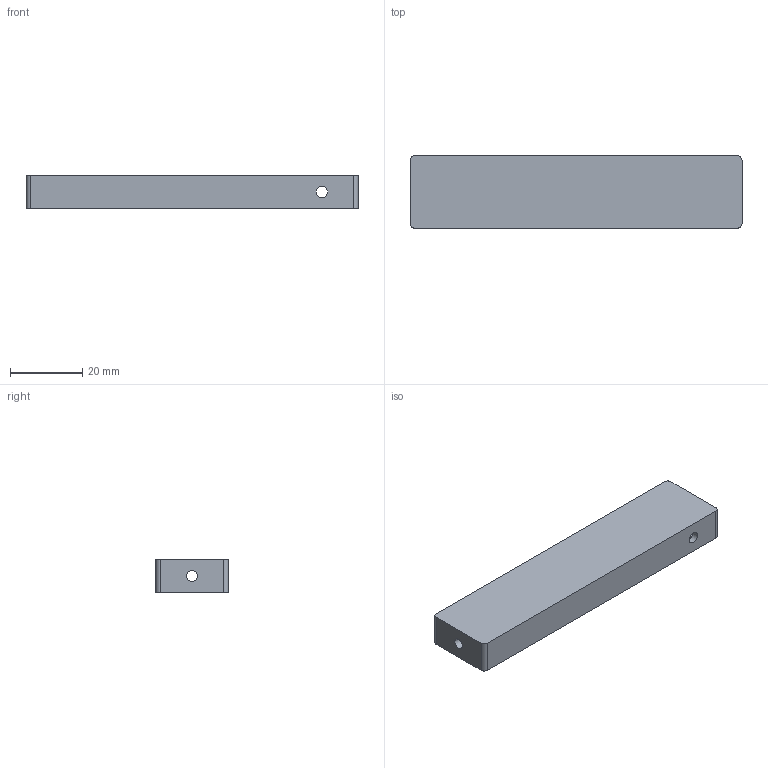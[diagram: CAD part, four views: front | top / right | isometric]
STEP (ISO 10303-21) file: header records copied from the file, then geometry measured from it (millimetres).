
FILE_DESCRIPTION(('Open CASCADE Model'),'2;1');
FILE_NAME('Open CASCADE Shape Model','2026-08-15T08:52:40',('Author'),( 'Open CASCADE'),'Open CASCADE STEP processor 7.9','Open CASCADE 7.9' ,'Unknown');
FILE_SCHEMA(('AUTOMOTIVE_DESIGN { 1 0 10303 214 1 1 1 1 }'));
Length unit declared in the file: millimetre
Products named in the file (1): Open CASCADE STEP translator 7.9 5
Bounding box: 92 x 20 x 9.2 mm (x, y, z)
Volume: 9049.8 mm3; surface area: 9590.6 mm2
Topology: 1 solids, 1 shells, 18 faces, 45 edges, 30 vertices
Faces by surface type: plane 11, cylinder 7
Full cylindrical faces by diameter (mm): 3 x1, 3.2 x2
Entity records: 1160 total; most frequent: CARTESIAN_POINT 228, DIRECTION 173, LINE 99, VECTOR 99, ORIENTED_EDGE 90, PCURVE 90, DEFINITIONAL_REPRESENTATION 90, EDGE_CURVE 45
